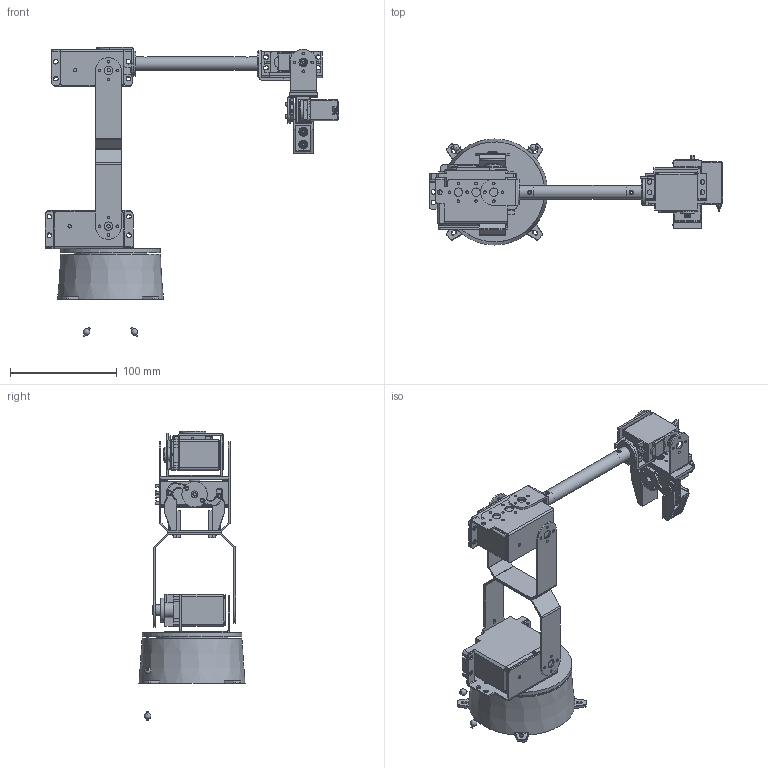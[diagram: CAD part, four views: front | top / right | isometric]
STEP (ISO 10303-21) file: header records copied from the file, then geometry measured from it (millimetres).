
FILE_DESCRIPTION(/* description */ ('Unknown'),/* implementation_level */ '2;1');
FILE_NAME(/* name */ 'AL5D',/* time_stamp */ '2021-09-15T15:36:08+03:00',/* author */ ('Unknown'),/* organization */ ('Unknown'),/* preprocessor_version */ 'ST-DEVELOPER v16.7',/* originating_system */ 'Solid Edge',/* authorisation */ 'Unknown');
FILE_SCHEMA (('AUTOMOTIVE_DESIGN {1 0 10303 214 3 1 1}'));
Products named in the file (28): AL5D; Base; Inner-Roller BR-KT; Base BR-KT; hitec hs485-hb; hitec HS485-HB; link1; Top-Mount BR-KT; asb-204; hitec hs-805bb; link4; asb-09; lga-kt; gripper; hitec hs-422; servo body; servo output; link2; asb-205; asb-203; link3; asb-201; hitec hs-755hb; asb-06; hub-08; at-03; asb-04; hitec hs-645mg
Assembly tree (33 placements, depth 4):
  AL5D
    Base
      Inner-Roller BR-KT  x5
      Base BR-KT
      hitec hs485-hb
        hitec HS485-HB
    link1
      Top-Mount BR-KT
      asb-204
      hitec hs-805bb
    link4
      asb-09
      lga-kt
      gripper
      hitec hs-422
        servo body
        servo output
    link2
      asb-205
      asb-203
    link3
      asb-201
      hitec hs-755hb
      asb-06  x2
      hub-08  x2
      at-03
      asb-04
      hitec hs-645mg
Bounding box: 275.82 x 99.57 x 271.51 mm (x, y, z)
Volume: 445817 mm3; surface area: 206347.3 mm2
Topology: 26 solids, 30 shells, 2572 faces, 6617 edges, 4108 vertices
Faces by surface type: plane 1310, cylinder 901, torus 155, bspline 94, cone 59, sphere 53
Full cylindrical faces by diameter (mm): 1.575 x10, 1.6 x6, 1.8 x4, 1.9 x1, 2.134 x4, 2.362 x5, 2.388 x93, 2.5 x2, 2.563 x4, 2.6 x1, 2.828 x5, 3 x5, 3.175 x16, 3.2 x4, 3.251 x4, 3.81 x4, 4 x6, 4.293 x4, 4.369 x22, 4.775 x2, 5.5 x1, 5.588 x1, 5.924 x4, 6.35 x9, 6.731 x4, 7.849 x2, 8.001 x19, 8.89 x1, 9.5 x1, 9.525 x5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
Entity records: 85669 total; most frequent: CARTESIAN_POINT 15299, DIRECTION 12414, ORIENTED_EDGE 11918, EDGE_CURVE 5959, AXIS2_PLACEMENT_3D 4450, VERTEX_POINT 3916, LINE 3514, VECTOR 3514
